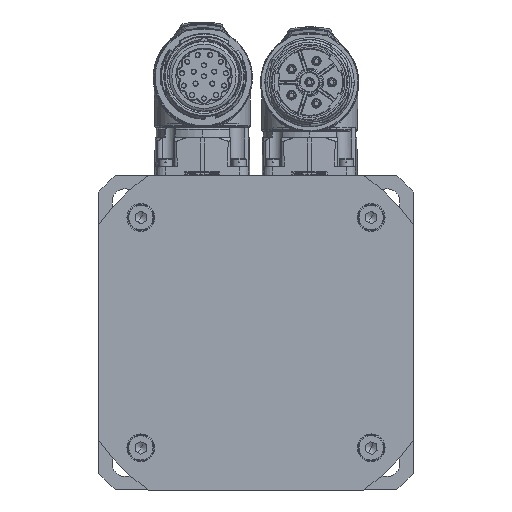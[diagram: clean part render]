
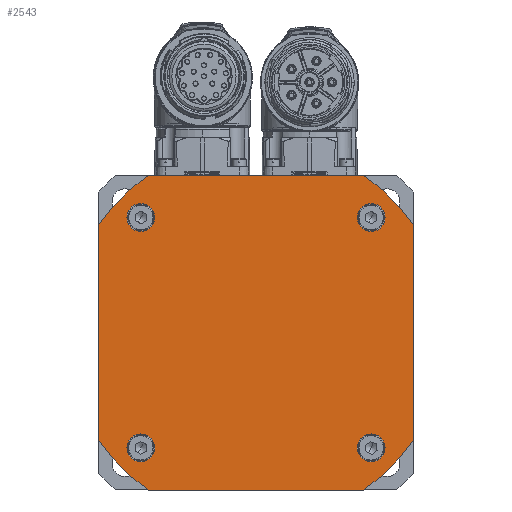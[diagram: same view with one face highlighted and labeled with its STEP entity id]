
A CAD part, left-side view. The second image highlights one B-rep face of the part: STEP entity #2543.
In plain terms, the highlighted planar face has unit normal (-1, 0, 0) as drawn and (1, 0, 0) by its records, which use the part's own axes.
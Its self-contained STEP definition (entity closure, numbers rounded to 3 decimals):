
#2400=CARTESIAN_POINT('Axis2P3D Location',(46.,0.,0.)) ;
#2405=CARTESIAN_POINT('Axis2P3D Location',(46.,0.,0.)) ;
#2409=CARTESIAN_POINT('Cartesian Point',(46.,-42.5,-29.086)) ;
#2411=CARTESIAN_POINT('Cartesian Point',(46.,-29.086,-42.5)) ;
#2414=CARTESIAN_POINT('Line Origine',(46.,0.,-42.5)) ;
#2418=CARTESIAN_POINT('Cartesian Point',(46.,29.086,-42.5)) ;
#2421=CARTESIAN_POINT('Axis2P3D Location',(46.,0.,0.)) ;
#2425=CARTESIAN_POINT('Cartesian Point',(46.,42.5,-29.086)) ;
#2428=CARTESIAN_POINT('Line Origine',(46.,42.5,0.)) ;
#2432=CARTESIAN_POINT('Cartesian Point',(46.,42.5,29.086)) ;
#2435=CARTESIAN_POINT('Axis2P3D Location',(46.,0.,0.)) ;
#2439=CARTESIAN_POINT('Cartesian Point',(46.,29.086,42.5)) ;
#2442=CARTESIAN_POINT('Line Origine',(46.,0.,42.5)) ;
#2446=CARTESIAN_POINT('Cartesian Point',(46.,-29.086,42.5)) ;
#2449=CARTESIAN_POINT('Axis2P3D Location',(46.,0.,0.)) ;
#2453=CARTESIAN_POINT('Cartesian Point',(46.,-42.5,29.086)) ;
#2456=CARTESIAN_POINT('Line Origine',(46.,-42.5,0.)) ;
#2471=CARTESIAN_POINT('Axis2P3D Location',(46.,-31.113,31.113)) ;
#2475=CARTESIAN_POINT('Cartesian Point',(46.,-34.863,31.113)) ;
#2477=CARTESIAN_POINT('Cartesian Point',(46.,-27.363,31.113)) ;
#2480=CARTESIAN_POINT('Axis2P3D Location',(46.,-31.113,31.113)) ;
#2489=CARTESIAN_POINT('Axis2P3D Location',(46.,-31.113,-31.113)) ;
#2493=CARTESIAN_POINT('Cartesian Point',(46.,-34.863,-31.113)) ;
#2495=CARTESIAN_POINT('Cartesian Point',(46.,-27.363,-31.113)) ;
#2498=CARTESIAN_POINT('Axis2P3D Location',(46.,-31.113,-31.113)) ;
#2507=CARTESIAN_POINT('Axis2P3D Location',(46.,31.113,31.113)) ;
#2511=CARTESIAN_POINT('Cartesian Point',(46.,34.863,31.113)) ;
#2513=CARTESIAN_POINT('Cartesian Point',(46.,27.363,31.113)) ;
#2516=CARTESIAN_POINT('Axis2P3D Location',(46.,31.113,31.113)) ;
#2525=CARTESIAN_POINT('Axis2P3D Location',(46.,31.113,-31.113)) ;
#2529=CARTESIAN_POINT('Cartesian Point',(46.,34.863,-31.113)) ;
#2531=CARTESIAN_POINT('Cartesian Point',(46.,27.363,-31.113)) ;
#2534=CARTESIAN_POINT('Axis2P3D Location',(46.,31.113,-31.113)) ;
#2401=DIRECTION('Axis2P3D Direction',(1.,0.,0.)) ;
#2402=DIRECTION('Axis2P3D XDirection',(0.,1.,0.)) ;
#2406=DIRECTION('Axis2P3D Direction',(1.,0.,0.)) ;
#2415=DIRECTION('Vector Direction',(0.,-1.,0.)) ;
#2422=DIRECTION('Axis2P3D Direction',(1.,0.,0.)) ;
#2429=DIRECTION('Vector Direction',(0.,0.,1.)) ;
#2436=DIRECTION('Axis2P3D Direction',(1.,0.,0.)) ;
#2443=DIRECTION('Vector Direction',(0.,1.,0.)) ;
#2450=DIRECTION('Axis2P3D Direction',(1.,0.,0.)) ;
#2457=DIRECTION('Vector Direction',(0.,0.,-1.)) ;
#2472=DIRECTION('Axis2P3D Direction',(1.,0.,0.)) ;
#2481=DIRECTION('Axis2P3D Direction',(1.,0.,0.)) ;
#2490=DIRECTION('Axis2P3D Direction',(1.,0.,0.)) ;
#2499=DIRECTION('Axis2P3D Direction',(1.,0.,0.)) ;
#2508=DIRECTION('Axis2P3D Direction',(1.,0.,0.)) ;
#2517=DIRECTION('Axis2P3D Direction',(1.,0.,0.)) ;
#2526=DIRECTION('Axis2P3D Direction',(1.,0.,0.)) ;
#2535=DIRECTION('Axis2P3D Direction',(1.,0.,0.)) ;
#2403=AXIS2_PLACEMENT_3D('Plane Axis2P3D',#2400,#2401,#2402) ;
#2407=AXIS2_PLACEMENT_3D('Circle Axis2P3D',#2405,#2406,$) ;
#2423=AXIS2_PLACEMENT_3D('Circle Axis2P3D',#2421,#2422,$) ;
#2437=AXIS2_PLACEMENT_3D('Circle Axis2P3D',#2435,#2436,$) ;
#2451=AXIS2_PLACEMENT_3D('Circle Axis2P3D',#2449,#2450,$) ;
#2473=AXIS2_PLACEMENT_3D('Circle Axis2P3D',#2471,#2472,$) ;
#2482=AXIS2_PLACEMENT_3D('Circle Axis2P3D',#2480,#2481,$) ;
#2491=AXIS2_PLACEMENT_3D('Circle Axis2P3D',#2489,#2490,$) ;
#2500=AXIS2_PLACEMENT_3D('Circle Axis2P3D',#2498,#2499,$) ;
#2509=AXIS2_PLACEMENT_3D('Circle Axis2P3D',#2507,#2508,$) ;
#2518=AXIS2_PLACEMENT_3D('Circle Axis2P3D',#2516,#2517,$) ;
#2527=AXIS2_PLACEMENT_3D('Circle Axis2P3D',#2525,#2526,$) ;
#2536=AXIS2_PLACEMENT_3D('Circle Axis2P3D',#2534,#2535,$) ;
#2462=ORIENTED_EDGE('Oriented Edge',*,*,#2413,.T.) ;
#2463=ORIENTED_EDGE('Oriented Edge',*,*,#2420,.T.) ;
#2464=ORIENTED_EDGE('Oriented Edge',*,*,#2427,.T.) ;
#2465=ORIENTED_EDGE('Oriented Edge',*,*,#2434,.T.) ;
#2466=ORIENTED_EDGE('Oriented Edge',*,*,#2441,.T.) ;
#2467=ORIENTED_EDGE('Oriented Edge',*,*,#2448,.T.) ;
#2468=ORIENTED_EDGE('Oriented Edge',*,*,#2455,.T.) ;
#2469=ORIENTED_EDGE('Oriented Edge',*,*,#2460,.T.) ;
#2486=ORIENTED_EDGE('Oriented Edge',*,*,#2479,.F.) ;
#2487=ORIENTED_EDGE('Oriented Edge',*,*,#2484,.F.) ;
#2504=ORIENTED_EDGE('Oriented Edge',*,*,#2497,.F.) ;
#2505=ORIENTED_EDGE('Oriented Edge',*,*,#2502,.F.) ;
#2522=ORIENTED_EDGE('Oriented Edge',*,*,#2515,.F.) ;
#2523=ORIENTED_EDGE('Oriented Edge',*,*,#2520,.F.) ;
#2540=ORIENTED_EDGE('Oriented Edge',*,*,#2533,.F.) ;
#2541=ORIENTED_EDGE('Oriented Edge',*,*,#2538,.F.) ;
#2488=FACE_BOUND('Face Bound',#2485,.T.) ;
#2506=FACE_BOUND('Face Bound',#2503,.T.) ;
#2524=FACE_BOUND('Face Bound',#2521,.T.) ;
#2542=FACE_BOUND('Face Bound',#2539,.T.) ;
#2416=VECTOR('Line Direction',#2415,1.) ;
#2430=VECTOR('Line Direction',#2429,1.) ;
#2444=VECTOR('Line Direction',#2443,1.) ;
#2458=VECTOR('Line Direction',#2457,1.) ;
#2543=ADVANCED_FACE('',(#2470,#2488,#2506,#2524,#2542),#2404,.T.) ;
#2408=CIRCLE('generated circle',#2407,51.5) ;
#2424=CIRCLE('generated circle',#2423,51.5) ;
#2438=CIRCLE('generated circle',#2437,51.5) ;
#2452=CIRCLE('generated circle',#2451,51.5) ;
#2474=CIRCLE('generated circle',#2473,3.75) ;
#2483=CIRCLE('generated circle',#2482,3.75) ;
#2492=CIRCLE('generated circle',#2491,3.75) ;
#2501=CIRCLE('generated circle',#2500,3.75) ;
#2510=CIRCLE('generated circle',#2509,3.75) ;
#2519=CIRCLE('generated circle',#2518,3.75) ;
#2528=CIRCLE('generated circle',#2527,3.75) ;
#2537=CIRCLE('generated circle',#2536,3.75) ;
#2413=EDGE_CURVE('',#2410,#2412,#2408,.T.) ;
#2420=EDGE_CURVE('',#2412,#2419,#2417,.F.) ;
#2427=EDGE_CURVE('',#2419,#2426,#2424,.T.) ;
#2434=EDGE_CURVE('',#2426,#2433,#2431,.T.) ;
#2441=EDGE_CURVE('',#2433,#2440,#2438,.T.) ;
#2448=EDGE_CURVE('',#2440,#2447,#2445,.F.) ;
#2455=EDGE_CURVE('',#2447,#2454,#2452,.T.) ;
#2460=EDGE_CURVE('',#2454,#2410,#2459,.T.) ;
#2479=EDGE_CURVE('',#2476,#2478,#2474,.T.) ;
#2484=EDGE_CURVE('',#2478,#2476,#2483,.T.) ;
#2497=EDGE_CURVE('',#2494,#2496,#2492,.T.) ;
#2502=EDGE_CURVE('',#2496,#2494,#2501,.T.) ;
#2515=EDGE_CURVE('',#2512,#2514,#2510,.T.) ;
#2520=EDGE_CURVE('',#2514,#2512,#2519,.T.) ;
#2533=EDGE_CURVE('',#2530,#2532,#2528,.T.) ;
#2538=EDGE_CURVE('',#2532,#2530,#2537,.T.) ;
#2461=EDGE_LOOP('Oriented Loop',(#2462,#2463,#2464,#2465,#2466,#2467,#2468,#2469)) ;
#2485=EDGE_LOOP('Oriented Loop',(#2486,#2487)) ;
#2503=EDGE_LOOP('Oriented Loop',(#2504,#2505)) ;
#2521=EDGE_LOOP('Oriented Loop',(#2522,#2523)) ;
#2539=EDGE_LOOP('Oriented Loop',(#2540,#2541)) ;
#2470=FACE_OUTER_BOUND('Face Bound',#2461,.T.) ;
#2417=LINE('Line',#2414,#2416) ;
#2431=LINE('Line',#2428,#2430) ;
#2445=LINE('Line',#2442,#2444) ;
#2459=LINE('Line',#2456,#2458) ;
#2404=PLANE('Plane',#2403) ;
#2410=VERTEX_POINT('Vertex Point',#2409) ;
#2412=VERTEX_POINT('Vertex Point',#2411) ;
#2419=VERTEX_POINT('Vertex Point',#2418) ;
#2426=VERTEX_POINT('Vertex Point',#2425) ;
#2433=VERTEX_POINT('Vertex Point',#2432) ;
#2440=VERTEX_POINT('Vertex Point',#2439) ;
#2447=VERTEX_POINT('Vertex Point',#2446) ;
#2454=VERTEX_POINT('Vertex Point',#2453) ;
#2476=VERTEX_POINT('Vertex Point',#2475) ;
#2478=VERTEX_POINT('Vertex Point',#2477) ;
#2494=VERTEX_POINT('Vertex Point',#2493) ;
#2496=VERTEX_POINT('Vertex Point',#2495) ;
#2512=VERTEX_POINT('Vertex Point',#2511) ;
#2514=VERTEX_POINT('Vertex Point',#2513) ;
#2530=VERTEX_POINT('Vertex Point',#2529) ;
#2532=VERTEX_POINT('Vertex Point',#2531) ;
